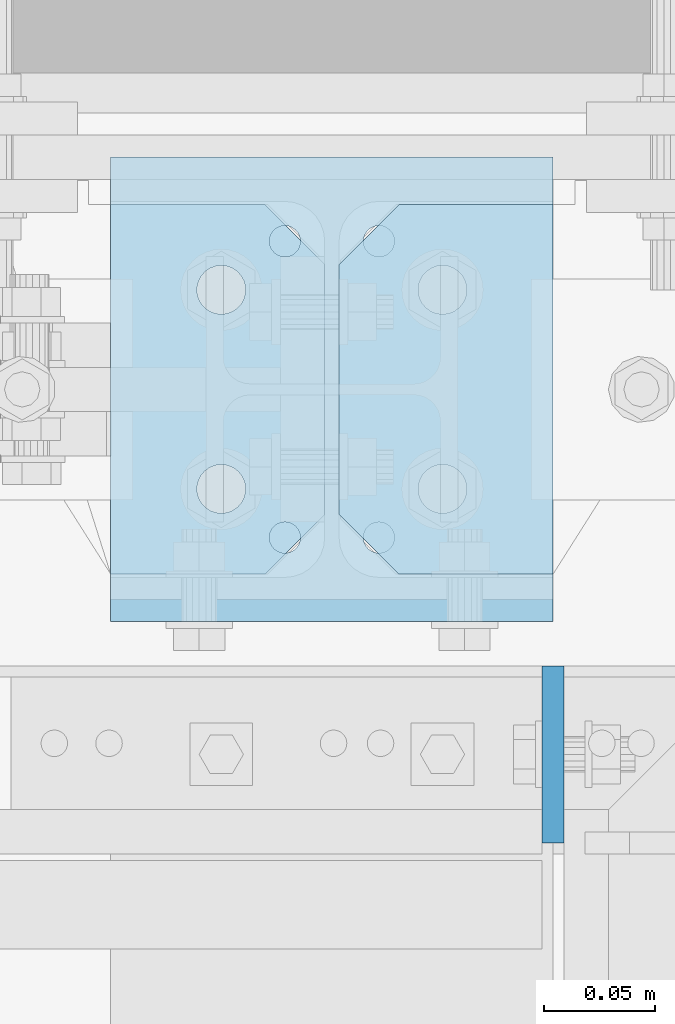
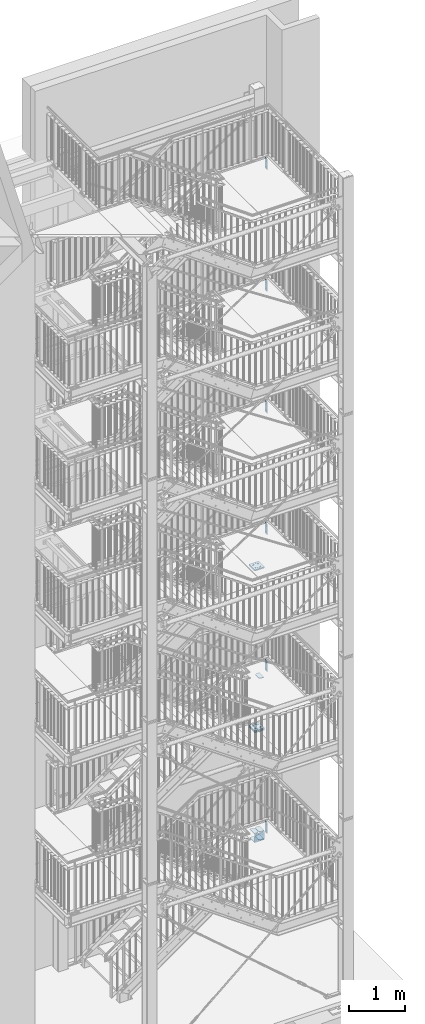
# One storey, part 215 of 825: 15 plates, 66 openings.
"""IFC2X3 building model written with IfcOpenShell, lengths in millimetres."""

from ifc_helpers import new_model, entity, si_unit, converted_unit, frame, frame_2d, origin, origin_with_axes, origin_2d_with_axis, place, context, project, spatial, polyline, circle, outline, extrude, material, layer, layer_set, element, save


model = new_model("IFC2X3")

# Units and contexts
model_context = context("Model", 3, precision=1e-09, world=origin_with_axes())
ifc_project = project(units=[si_unit("LENGTHUNIT", "METRE", prefix="MILLI"), si_unit("AREAUNIT", "SQUARE_METRE"), si_unit("VOLUMEUNIT", "CUBIC_METRE"), converted_unit("PLANEANGLEUNIT", "DEGREE", entity("IfcPlaneAngleMeasure", 0.01745329), si_unit("PLANEANGLEUNIT", "RADIAN"), dimensions=[0, 0, 0, 0, 0, 0, 0])], contexts=[model_context])

# Site, building, storey
site_placement = place(None, origin_with_axes())
site = spatial("IfcSite", under=ifc_project, at=site_placement, Name="Cnopf'sche Kinderklinik", CompositionType="ELEMENT")
building_placement = place(site_placement, origin_with_axes())
building = spatial("IfcBuilding", under=site, at=building_placement, Name="Struktur 1", CompositionType="ELEMENT")
storey_placement = place(building_placement, origin_with_axes())
storey = spatial("IfcBuildingStorey", under=building, at=storey_placement, Name="Default Storey", CompositionType="ELEMENT", Elevation=0.0)

# Plate, openings
ifc_material = material(Name="S235JR")
ifc_layer_1 = layer(ifc_material, 10.0)
ifc_layer_set_1 = layer_set([ifc_layer_1], Name="S235JR")
plate_1_placement = place(None, frame((8966.713402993, 7433.236971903, 5254.8947367), z_axis=(0.0, 0.0, -1.0), x_axis=(-1.0, 0.0, 0.0)))
plate_1 = element("IfcPlate", 1, at=plate_1_placement, inside=storey, material=ifc_layer_set_1, Name="Stiffener#4", ObjectType="Stiffener#4", context=model_context, shape_type="SweptSolid", body=[
    extrude(outline(polyline([(0.0, 0.0), (96.75, 0.0), (96.75, 167.0), (0.0, 167.0), (0.0, 0.0)])), origin_with_axes(), (0.0, 0.0, 1.0), 10.0),
])
opening_1_placement = place(plate_1_placement, frame((0.0, 0.0, -0.01), z_axis=(0.0, 0.0, 1.0), x_axis=(1.0, 0.0, 0.0)))
element("IfcOpeningElement", 2, at=opening_1_placement, cuts=plate_1, ObjectType="Opening", context=model_context, shape_type="SweptSolid", body=[
    extrude(outline(polyline([(96.75, 167.0), (69.75, 167.0), (96.75, 140.0), (96.75, 167.0)])), origin(), (0.0, 0.0, 1.0), 10.02),
])
opening_2_placement = place(plate_1_placement, frame((0.0, 0.0, -0.01), z_axis=(0.0, 0.0, 1.0), x_axis=(1.0, 0.0, 0.0)))
element("IfcOpeningElement", 3, at=opening_2_placement, cuts=plate_1, ObjectType="Opening", context=model_context, shape_type="SweptSolid", body=[
    extrude(outline(polyline([(96.75, 0.0), (96.75, 27.0), (69.75, 0.0), (96.75, 0.0)])), origin(), (0.0, 0.0, 1.0), 10.02),
])

plate_2_placement = place(None, frame((8866.713402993, 7411.736971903, 1846.0526312), z_axis=(0.0, 1.0, 0.0), x_axis=(0.0, 0.0, -1.0)))
plate_2 = element("IfcPlate", 4, at=plate_2_placement, inside=storey, material=ifc_layer_set_1, Name="Endplate", ObjectType="Endplate", context=model_context, shape_type="SweptSolid", body=[
    extrude(outline(polyline([(-90.0, -100.0), (90.0, -100.0), (90.0, 100.0), (-90.0, 100.0), (-90.0, -100.0)])), origin_with_axes(), (0.0, 0.0, 1.0), 10.0),
])
opening_3_placement = place(plate_2_placement, frame((-67.0, 21.25, 10.5), z_axis=(0.0, 0.0, -1.0), x_axis=(-1.0, 0.0, 0.0)))
element("IfcOpeningElement", 5, at=opening_3_placement, cuts=plate_2, ObjectType="Opening", context=model_context, shape_type="SweptSolid", body=[
    extrude(circle(Radius=6.001, at=origin_2d_with_axis()), origin(), (0.0, 0.0, 1.0), 11.0),
])
opening_4_placement = place(plate_2_placement, frame((67.0, 21.25, 10.5), z_axis=(0.0, 0.0, -1.0), x_axis=(-1.0, 0.0, 0.0)))
element("IfcOpeningElement", 6, at=opening_4_placement, cuts=plate_2, ObjectType="Opening", context=model_context, shape_type="SweptSolid", body=[
    extrude(circle(Radius=6.001, at=origin_2d_with_axis()), origin(), (0.0, 0.0, 1.0), 11.0),
])
opening_5_placement = place(plate_2_placement, frame((67.0, -21.25, 10.5), z_axis=(0.0, 0.0, -1.0), x_axis=(-1.0, 0.0, 0.0)))
element("IfcOpeningElement", 7, at=opening_5_placement, cuts=plate_2, ObjectType="Opening", context=model_context, shape_type="SweptSolid", body=[
    extrude(circle(Radius=6.001, at=origin_2d_with_axis()), origin(), (0.0, 0.0, 1.0), 11.0),
])
opening_6_placement = place(plate_2_placement, frame((-67.0, -21.25, 10.5), z_axis=(0.0, 0.0, -1.0), x_axis=(-1.0, 0.0, 0.0)))
element("IfcOpeningElement", 8, at=opening_6_placement, cuts=plate_2, ObjectType="Opening", context=model_context, shape_type="SweptSolid", body=[
    extrude(circle(Radius=6.001, at=origin_2d_with_axis()), origin(), (0.0, 0.0, 1.0), 11.0),
])
opening_7_placement = place(plate_2_placement, frame((-45.0, 60.0, 10.5), z_axis=(0.0, 0.0, -1.0), x_axis=(0.0, 1.0, 0.0)))
element("IfcOpeningElement", 9, at=opening_7_placement, cuts=plate_2, ObjectType="Opening", context=model_context, shape_type="SweptSolid", body=[
    extrude(circle(Radius=9.001, at=origin_2d_with_axis()), origin(), (0.0, 0.0, 1.0), 11.0),
])
opening_8_placement = place(plate_2_placement, frame((-45.0, -60.0, 10.5), z_axis=(0.0, 0.0, -1.0), x_axis=(0.0, -1.0, 0.0)))
element("IfcOpeningElement", 10, at=opening_8_placement, cuts=plate_2, ObjectType="Opening", context=model_context, shape_type="SweptSolid", body=[
    extrude(circle(Radius=9.001, at=origin_2d_with_axis()), origin(), (0.0, 0.0, 1.0), 11.0),
])
opening_9_placement = place(plate_2_placement, frame((45.0, -60.0, 10.5), z_axis=(0.0, 0.0, -1.0), x_axis=(0.0, -1.0, 0.0)))
element("IfcOpeningElement", 11, at=opening_9_placement, cuts=plate_2, ObjectType="Opening", context=model_context, shape_type="SweptSolid", body=[
    extrude(circle(Radius=9.001, at=origin_2d_with_axis()), origin(), (0.0, 0.0, 1.0), 11.0),
])
opening_10_placement = place(plate_2_placement, frame((45.0, 60.0, 10.5), z_axis=(0.0, 0.0, -1.0), x_axis=(0.0, 1.0, 0.0)))
element("IfcOpeningElement", 12, at=opening_10_placement, cuts=plate_2, ObjectType="Opening", context=model_context, shape_type="SweptSolid", body=[
    extrude(circle(Radius=9.001, at=origin_2d_with_axis()), origin(), (0.0, 0.0, 1.0), 11.0),
])

plate_3_placement = place(None, frame((8766.713402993, 7433.236971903, 1931.0526312), z_axis=(0.0, 0.0, 1.0), x_axis=(1.0, 0.0, 0.0)))
plate_3 = element("IfcPlate", 13, at=plate_3_placement, inside=storey, material=ifc_layer_set_1, Name="Stiffener#1", ObjectType="Stiffener#1", context=model_context, shape_type="SweptSolid", body=[
    extrude(outline(polyline([(0.0, 0.0), (96.75, 0.0), (96.75, 167.0), (0.0, 167.0), (0.0, 0.0)])), origin_with_axes(), (0.0, 0.0, 1.0), 10.0),
])
opening_11_placement = place(plate_3_placement, frame((0.0, 0.0, -0.01), z_axis=(0.0, 0.0, 1.0), x_axis=(1.0, 0.0, 0.0)))
element("IfcOpeningElement", 14, at=opening_11_placement, cuts=plate_3, ObjectType="Opening", context=model_context, shape_type="SweptSolid", body=[
    extrude(outline(polyline([(96.75, 167.0), (69.75, 167.0), (96.75, 140.0), (96.75, 167.0)])), origin(), (0.0, 0.0, 1.0), 10.02),
])
opening_12_placement = place(plate_3_placement, frame((0.0, 0.0, -0.01), z_axis=(0.0, 0.0, 1.0), x_axis=(1.0, 0.0, 0.0)))
element("IfcOpeningElement", 15, at=opening_12_placement, cuts=plate_3, ObjectType="Opening", context=model_context, shape_type="SweptSolid", body=[
    extrude(outline(polyline([(96.75, 0.0), (96.75, 27.0), (69.75, 0.0), (96.75, 0.0)])), origin(), (0.0, 0.0, 1.0), 10.02),
])

plate_4_placement = place(None, frame((8869.963402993, 7433.236971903, 1931.0526312), z_axis=(0.0, 0.0, 1.0), x_axis=(1.0, 0.0, 0.0)))
plate_4 = element("IfcPlate", 16, at=plate_4_placement, inside=storey, material=ifc_layer_set_1, Name="Stiffener#2", ObjectType="Stiffener#2", context=model_context, shape_type="SweptSolid", body=[
    extrude(outline(polyline([(0.0, 0.0), (96.75, 0.0), (96.75, 167.0), (0.0, 167.0), (0.0, 0.0)])), origin_with_axes(), (0.0, 0.0, 1.0), 10.0),
])
opening_13_placement = place(plate_4_placement, frame((0.0, 0.0, -0.01), z_axis=(0.0, 0.0, 1.0), x_axis=(1.0, 0.0, 0.0)))
element("IfcOpeningElement", 17, at=opening_13_placement, cuts=plate_4, ObjectType="Opening", context=model_context, shape_type="SweptSolid", body=[
    extrude(outline(polyline([(0.0, 167.0), (0.0, 140.0), (27.0, 167.0), (0.0, 167.0)])), origin(), (0.0, 0.0, 1.0), 10.02),
])
opening_14_placement = place(plate_4_placement, frame((0.0, 0.0, -0.01), z_axis=(0.0, 0.0, 1.0), x_axis=(1.0, 0.0, 0.0)))
element("IfcOpeningElement", 18, at=opening_14_placement, cuts=plate_4, ObjectType="Opening", context=model_context, shape_type="SweptSolid", body=[
    extrude(outline(polyline([(0.0, 0.0), (27.0, 0.0), (0.0, 27.0), (0.0, 0.0)])), origin(), (0.0, 0.0, 1.0), 10.02),
])

plate_5_placement = place(None, frame((8863.463402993, 7433.236971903, 1761.0526312), z_axis=(0.0, 0.0, -1.0), x_axis=(-1.0, 0.0, 0.0)))
plate_5 = element("IfcPlate", 19, at=plate_5_placement, inside=storey, material=ifc_layer_set_1, Name="Stiffener#3", ObjectType="Stiffener#3", context=model_context, shape_type="SweptSolid", body=[
    extrude(outline(polyline([(0.0, 0.0), (96.75, 0.0), (96.75, 167.0), (0.0, 167.0), (0.0, 0.0)])), origin_with_axes(), (0.0, 0.0, 1.0), 10.0),
])
opening_15_placement = place(plate_5_placement, frame((0.0, 0.0, -0.01), z_axis=(0.0, 0.0, 1.0), x_axis=(1.0, 0.0, 0.0)))
element("IfcOpeningElement", 20, at=opening_15_placement, cuts=plate_5, ObjectType="Opening", context=model_context, shape_type="SweptSolid", body=[
    extrude(outline(polyline([(0.0, 167.0), (0.0, 140.0), (27.0, 167.0), (0.0, 167.0)])), origin(), (0.0, 0.0, 1.0), 10.02),
])
opening_16_placement = place(plate_5_placement, frame((0.0, 0.0, -0.01), z_axis=(0.0, 0.0, 1.0), x_axis=(1.0, 0.0, 0.0)))
element("IfcOpeningElement", 21, at=opening_16_placement, cuts=plate_5, ObjectType="Opening", context=model_context, shape_type="SweptSolid", body=[
    extrude(outline(polyline([(0.0, 0.0), (27.0, 0.0), (0.0, 27.0), (0.0, 0.0)])), origin(), (0.0, 0.0, 1.0), 10.02),
])

plate_6_placement = place(None, frame((8966.713402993, 7433.236971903, 1761.0526312), z_axis=(0.0, 0.0, -1.0), x_axis=(-1.0, 0.0, 0.0)))
plate_6 = element("IfcPlate", 22, at=plate_6_placement, inside=storey, material=ifc_layer_set_1, Name="Stiffener#4", ObjectType="Stiffener#4", context=model_context, shape_type="SweptSolid", body=[
    extrude(outline(polyline([(0.0, 0.0), (96.75, 0.0), (96.75, 167.0), (0.0, 167.0), (0.0, 0.0)])), origin_with_axes(), (0.0, 0.0, 1.0), 10.0),
])
opening_17_placement = place(plate_6_placement, frame((0.0, 0.0, -0.01), z_axis=(0.0, 0.0, 1.0), x_axis=(1.0, 0.0, 0.0)))
element("IfcOpeningElement", 23, at=opening_17_placement, cuts=plate_6, ObjectType="Opening", context=model_context, shape_type="SweptSolid", body=[
    extrude(outline(polyline([(96.75, 167.0), (69.75, 167.0), (96.75, 140.0), (96.75, 167.0)])), origin(), (0.0, 0.0, 1.0), 10.02),
])
opening_18_placement = place(plate_6_placement, frame((0.0, 0.0, -0.01), z_axis=(0.0, 0.0, 1.0), x_axis=(1.0, 0.0, 0.0)))
element("IfcOpeningElement", 24, at=opening_18_placement, cuts=plate_6, ObjectType="Opening", context=model_context, shape_type="SweptSolid", body=[
    extrude(outline(polyline([(96.75, 0.0), (96.75, 27.0), (69.75, 0.0), (96.75, 0.0)])), origin(), (0.0, 0.0, 1.0), 10.02),
])

plate_7_placement = place(None, frame((8971.713402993, 7311.736971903, 2176.0526312), z_axis=(-1.0, 0.0, 0.0), x_axis=(0.0, 1.0, 0.0)))
plate_7 = element("IfcPlate", 25, at=plate_7_placement, inside=storey, material=ifc_layer_set_1, Name="Endplate", ObjectType="Endplate", context=model_context, shape_type="SweptSolid", body=[
    extrude(outline(polyline([(0.0, 0.0), (80.0, 0.0), (80.0, 230.0), (0.0, 230.0), (0.0, 0.0)])), origin_with_axes(), (0.0, 0.0, 1.0), 10.0),
])
opening_19_placement = place(plate_7_placement, frame((17.5, 209.0, -0.5), z_axis=(0.0, 0.0, 1.0), x_axis=(0.0, -1.0, 0.0)))
element("IfcOpeningElement", 26, at=opening_19_placement, cuts=plate_7, ObjectType="Opening", context=model_context, shape_type="SweptSolid", body=[
    extrude(circle(Radius=6.001, at=origin_2d_with_axis()), origin(), (0.0, 0.0, 1.0), 11.0),
])
opening_20_placement = place(plate_7_placement, frame((17.5, 21.0, -0.5), z_axis=(0.0, 0.0, 1.0), x_axis=(0.0, -1.0, 0.0)))
element("IfcOpeningElement", 27, at=opening_20_placement, cuts=plate_7, ObjectType="Opening", context=model_context, shape_type="SweptSolid", body=[
    extrude(circle(Radius=6.001, at=origin_2d_with_axis()), origin(), (0.0, 0.0, 1.0), 11.0),
])
opening_21_placement = place(plate_7_placement, frame((40.0, 115.0, -0.5), z_axis=(0.0, 0.0, 1.0), x_axis=(0.0, -1.0, 0.0)))
element("IfcOpeningElement", 28, at=opening_21_placement, cuts=plate_7, ObjectType="Opening", context=model_context, shape_type="SweptSolid", body=[
    extrude(circle(Radius=9.001, at=frame_2d((60.0, 0.0), x_axis=(1.0, 0.0))), origin(), (0.0, 0.0, 1.0), 11.0),
])
opening_22_placement = place(plate_7_placement, frame((40.0, 115.0, -0.5), z_axis=(0.0, 0.0, 1.0), x_axis=(0.0, -1.0, 0.0)))
element("IfcOpeningElement", 29, at=opening_22_placement, cuts=plate_7, ObjectType="Opening", context=model_context, shape_type="SweptSolid", body=[
    extrude(circle(Radius=9.001, at=frame_2d((-60.0, 0.0), x_axis=(1.0, 0.0))), origin(), (0.0, 0.0, 1.0), 11.0),
])

plate_8_placement = place(None, frame((8971.713402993, 7311.736971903, 5669.8947367), z_axis=(-1.0, 0.0, 0.0), x_axis=(0.0, 1.0, 0.0)))
plate_8 = element("IfcPlate", 30, at=plate_8_placement, inside=storey, material=ifc_layer_set_1, Name="Endplate", ObjectType="Endplate", context=model_context, shape_type="SweptSolid", body=[
    extrude(outline(polyline([(0.0, 0.0), (80.0, 0.0), (80.0, 230.0), (0.0, 230.0), (0.0, 0.0)])), origin_with_axes(), (0.0, 0.0, 1.0), 10.0),
])
opening_23_placement = place(plate_8_placement, frame((17.5, 209.0, -0.5), z_axis=(0.0, 0.0, 1.0), x_axis=(0.0, -1.0, 0.0)))
element("IfcOpeningElement", 31, at=opening_23_placement, cuts=plate_8, ObjectType="Opening", context=model_context, shape_type="SweptSolid", body=[
    extrude(circle(Radius=6.001, at=origin_2d_with_axis()), origin(), (0.0, 0.0, 1.0), 11.0),
])
opening_24_placement = place(plate_8_placement, frame((17.5, 21.0, -0.5), z_axis=(0.0, 0.0, 1.0), x_axis=(0.0, -1.0, 0.0)))
element("IfcOpeningElement", 32, at=opening_24_placement, cuts=plate_8, ObjectType="Opening", context=model_context, shape_type="SweptSolid", body=[
    extrude(circle(Radius=6.001, at=origin_2d_with_axis()), origin(), (0.0, 0.0, 1.0), 11.0),
])
opening_25_placement = place(plate_8_placement, frame((40.0, 115.0, -0.5), z_axis=(0.0, 0.0, 1.0), x_axis=(0.0, -1.0, 0.0)))
element("IfcOpeningElement", 33, at=opening_25_placement, cuts=plate_8, ObjectType="Opening", context=model_context, shape_type="SweptSolid", body=[
    extrude(circle(Radius=9.001, at=frame_2d((60.0, 0.0), x_axis=(1.0, 0.0))), origin(), (0.0, 0.0, 1.0), 11.0),
])
opening_26_placement = place(plate_8_placement, frame((40.0, 115.0, -0.5), z_axis=(0.0, 0.0, 1.0), x_axis=(0.0, -1.0, 0.0)))
element("IfcOpeningElement", 34, at=opening_26_placement, cuts=plate_8, ObjectType="Opening", context=model_context, shape_type="SweptSolid", body=[
    extrude(circle(Radius=9.001, at=frame_2d((-60.0, 0.0), x_axis=(1.0, 0.0))), origin(), (0.0, 0.0, 1.0), 11.0),
])

plate_9_placement = place(None, frame((8971.713402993, 7311.736971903, 8631.0), z_axis=(-1.0, 0.0, 0.0), x_axis=(0.0, 1.0, 0.0)))
plate_9 = element("IfcPlate", 35, at=plate_9_placement, inside=storey, material=ifc_layer_set_1, Name="Endplate", ObjectType="Endplate", context=model_context, shape_type="SweptSolid", body=[
    extrude(outline(polyline([(0.0, 0.0), (80.0, 0.0), (80.0, 230.0), (0.0, 230.0), (0.0, 0.0)])), origin_with_axes(), (0.0, 0.0, 1.0), 10.0),
])
opening_27_placement = place(plate_9_placement, frame((17.5, 209.0, -0.5), z_axis=(0.0, 0.0, 1.0), x_axis=(0.0, -1.0, 0.0)))
element("IfcOpeningElement", 36, at=opening_27_placement, cuts=plate_9, ObjectType="Opening", context=model_context, shape_type="SweptSolid", body=[
    extrude(circle(Radius=6.001, at=origin_2d_with_axis()), origin(), (0.0, 0.0, 1.0), 11.0),
])
opening_28_placement = place(plate_9_placement, frame((17.5, 21.0, -0.5), z_axis=(0.0, 0.0, 1.0), x_axis=(0.0, -1.0, 0.0)))
element("IfcOpeningElement", 37, at=opening_28_placement, cuts=plate_9, ObjectType="Opening", context=model_context, shape_type="SweptSolid", body=[
    extrude(circle(Radius=6.001, at=origin_2d_with_axis()), origin(), (0.0, 0.0, 1.0), 11.0),
])
opening_29_placement = place(plate_9_placement, frame((40.0, 115.0, -0.5), z_axis=(0.0, 0.0, 1.0), x_axis=(0.0, -1.0, 0.0)))
element("IfcOpeningElement", 38, at=opening_29_placement, cuts=plate_9, ObjectType="Opening", context=model_context, shape_type="SweptSolid", body=[
    extrude(circle(Radius=9.001, at=frame_2d((60.0, 0.0), x_axis=(1.0, 0.0))), origin(), (0.0, 0.0, 1.0), 11.0),
])
opening_30_placement = place(plate_9_placement, frame((40.0, 115.0, -0.5), z_axis=(0.0, 0.0, 1.0), x_axis=(0.0, -1.0, 0.0)))
element("IfcOpeningElement", 39, at=opening_30_placement, cuts=plate_9, ObjectType="Opening", context=model_context, shape_type="SweptSolid", body=[
    extrude(circle(Radius=9.001, at=frame_2d((-60.0, 0.0), x_axis=(1.0, 0.0))), origin(), (0.0, 0.0, 1.0), 11.0),
])

plate_10_placement = place(None, frame((8971.713402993, 7311.736971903, 11260.5000003), z_axis=(-1.0, 0.0, 0.0), x_axis=(0.0, 1.0, 0.0)))
plate_10 = element("IfcPlate", 40, at=plate_10_placement, inside=storey, material=ifc_layer_set_1, Name="Endplate", ObjectType="Endplate", context=model_context, shape_type="SweptSolid", body=[
    extrude(outline(polyline([(0.0, 0.0), (80.0, 0.0), (80.0, 230.0), (0.0, 230.0), (0.0, 0.0)])), origin_with_axes(), (0.0, 0.0, 1.0), 10.0),
])
opening_31_placement = place(plate_10_placement, frame((17.5, 209.0, -0.5), z_axis=(0.0, 0.0, 1.0), x_axis=(0.0, -1.0, 0.0)))
element("IfcOpeningElement", 41, at=opening_31_placement, cuts=plate_10, ObjectType="Opening", context=model_context, shape_type="SweptSolid", body=[
    extrude(circle(Radius=6.001, at=origin_2d_with_axis()), origin(), (0.0, 0.0, 1.0), 11.0),
])
opening_32_placement = place(plate_10_placement, frame((17.5, 21.0, -0.5), z_axis=(0.0, 0.0, 1.0), x_axis=(0.0, -1.0, 0.0)))
element("IfcOpeningElement", 42, at=opening_32_placement, cuts=plate_10, ObjectType="Opening", context=model_context, shape_type="SweptSolid", body=[
    extrude(circle(Radius=6.001, at=origin_2d_with_axis()), origin(), (0.0, 0.0, 1.0), 11.0),
])
opening_33_placement = place(plate_10_placement, frame((40.0, 115.0, -0.5), z_axis=(0.0, 0.0, 1.0), x_axis=(0.0, -1.0, 0.0)))
element("IfcOpeningElement", 43, at=opening_33_placement, cuts=plate_10, ObjectType="Opening", context=model_context, shape_type="SweptSolid", body=[
    extrude(circle(Radius=9.001, at=frame_2d((60.0, 0.0), x_axis=(1.0, 0.0))), origin(), (0.0, 0.0, 1.0), 11.0),
])
opening_34_placement = place(plate_10_placement, frame((40.0, 115.0, -0.5), z_axis=(0.0, 0.0, 1.0), x_axis=(0.0, -1.0, 0.0)))
element("IfcOpeningElement", 44, at=opening_34_placement, cuts=plate_10, ObjectType="Opening", context=model_context, shape_type="SweptSolid", body=[
    extrude(circle(Radius=9.001, at=frame_2d((-60.0, 0.0), x_axis=(1.0, 0.0))), origin(), (0.0, 0.0, 1.0), 11.0),
])

plate_11_placement = place(None, frame((8971.713402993, 7311.736971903, 13891.5000001), z_axis=(-1.0, 0.0, 0.0), x_axis=(0.0, 1.0, 0.0)))
plate_11 = element("IfcPlate", 45, at=plate_11_placement, inside=storey, material=ifc_layer_set_1, Name="Endplate", ObjectType="Endplate", context=model_context, shape_type="SweptSolid", body=[
    extrude(outline(polyline([(0.0, 0.0), (80.0, 0.0), (80.0, 230.0), (0.0, 230.0), (0.0, 0.0)])), origin_with_axes(), (0.0, 0.0, 1.0), 10.0),
])
opening_35_placement = place(plate_11_placement, frame((17.5, 209.0, -0.5), z_axis=(0.0, 0.0, 1.0), x_axis=(0.0, -1.0, 0.0)))
element("IfcOpeningElement", 46, at=opening_35_placement, cuts=plate_11, ObjectType="Opening", context=model_context, shape_type="SweptSolid", body=[
    extrude(circle(Radius=6.001, at=origin_2d_with_axis()), origin(), (0.0, 0.0, 1.0), 11.0),
])
opening_36_placement = place(plate_11_placement, frame((17.5, 21.0, -0.5), z_axis=(0.0, 0.0, 1.0), x_axis=(0.0, -1.0, 0.0)))
element("IfcOpeningElement", 47, at=opening_36_placement, cuts=plate_11, ObjectType="Opening", context=model_context, shape_type="SweptSolid", body=[
    extrude(circle(Radius=6.001, at=origin_2d_with_axis()), origin(), (0.0, 0.0, 1.0), 11.0),
])
opening_37_placement = place(plate_11_placement, frame((40.0, 115.0, -0.5), z_axis=(0.0, 0.0, 1.0), x_axis=(0.0, -1.0, 0.0)))
element("IfcOpeningElement", 48, at=opening_37_placement, cuts=plate_11, ObjectType="Opening", context=model_context, shape_type="SweptSolid", body=[
    extrude(circle(Radius=9.001, at=frame_2d((60.0, 0.0), x_axis=(1.0, 0.0))), origin(), (0.0, 0.0, 1.0), 11.0),
])
opening_38_placement = place(plate_11_placement, frame((40.0, 115.0, -0.5), z_axis=(0.0, 0.0, 1.0), x_axis=(0.0, -1.0, 0.0)))
element("IfcOpeningElement", 49, at=opening_38_placement, cuts=plate_11, ObjectType="Opening", context=model_context, shape_type="SweptSolid", body=[
    extrude(circle(Radius=9.001, at=frame_2d((-60.0, 0.0), x_axis=(1.0, 0.0))), origin(), (0.0, 0.0, 1.0), 11.0),
])

plate_12_placement = place(None, frame((8971.713402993, 7311.736971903, 16519.0000003), z_axis=(-1.0, 0.0, 0.0), x_axis=(0.0, 1.0, 0.0)))
plate_12 = element("IfcPlate", 50, at=plate_12_placement, inside=storey, material=ifc_layer_set_1, Name="Endplate", ObjectType="Endplate", context=model_context, shape_type="SweptSolid", body=[
    extrude(outline(polyline([(0.0, 0.0), (80.0, 0.0), (80.0, 230.0), (0.0, 230.0), (0.0, 0.0)])), origin_with_axes(), (0.0, 0.0, 1.0), 10.0),
])
opening_39_placement = place(plate_12_placement, frame((17.5, 209.0, -0.5), z_axis=(0.0, 0.0, 1.0), x_axis=(0.0, -1.0, 0.0)))
element("IfcOpeningElement", 51, at=opening_39_placement, cuts=plate_12, ObjectType="Opening", context=model_context, shape_type="SweptSolid", body=[
    extrude(circle(Radius=6.001, at=origin_2d_with_axis()), origin(), (0.0, 0.0, 1.0), 11.0),
])
opening_40_placement = place(plate_12_placement, frame((17.5, 21.0, -0.5), z_axis=(0.0, 0.0, 1.0), x_axis=(0.0, -1.0, 0.0)))
element("IfcOpeningElement", 52, at=opening_40_placement, cuts=plate_12, ObjectType="Opening", context=model_context, shape_type="SweptSolid", body=[
    extrude(circle(Radius=6.001, at=origin_2d_with_axis()), origin(), (0.0, 0.0, 1.0), 11.0),
])
opening_41_placement = place(plate_12_placement, frame((40.0, 115.0, -0.5), z_axis=(0.0, 0.0, 1.0), x_axis=(0.0, -1.0, 0.0)))
element("IfcOpeningElement", 53, at=opening_41_placement, cuts=plate_12, ObjectType="Opening", context=model_context, shape_type="SweptSolid", body=[
    extrude(circle(Radius=9.001, at=frame_2d((60.0, 0.0), x_axis=(1.0, 0.0))), origin(), (0.0, 0.0, 1.0), 11.0),
])
opening_42_placement = place(plate_12_placement, frame((40.0, 115.0, -0.5), z_axis=(0.0, 0.0, 1.0), x_axis=(0.0, -1.0, 0.0)))
element("IfcOpeningElement", 54, at=opening_42_placement, cuts=plate_12, ObjectType="Opening", context=model_context, shape_type="SweptSolid", body=[
    extrude(circle(Radius=9.001, at=frame_2d((-60.0, 0.0), x_axis=(1.0, 0.0))), origin(), (0.0, 0.0, 1.0), 11.0),
])

ifc_layer_2 = layer(ifc_material, 25.0)
ifc_layer_set_2 = layer_set([ifc_layer_2], Name="S235JR")
plate_13_placement = place(None, frame((8866.713402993, 7516.736971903, 4150.0), z_axis=(0.0, 0.0, -1.0), x_axis=(0.0, -1.0, 0.0)))
plate_13 = element("IfcPlate", 55, at=plate_13_placement, inside=storey, material=ifc_layer_set_2, Name="Endplate#1", ObjectType="Endplate#1", context=model_context, shape_type="SweptSolid", body=[
    extrude(outline(polyline([(-105.0, -100.0), (105.0, -100.0), (105.0, 100.0), (-105.0, 100.0), (-105.0, -100.0)])), origin_with_axes(), (0.0, 0.0, 1.0), 25.0),
])
opening_43_placement = place(plate_13_placement, frame((67.0, 21.25, -0.5), z_axis=(0.0, 0.0, 1.0), x_axis=(1.0, 0.0, 0.0)))
element("IfcOpeningElement", 56, at=opening_43_placement, cuts=plate_13, ObjectType="Opening", context=model_context, shape_type="SweptSolid", body=[
    extrude(circle(Radius=7.001, at=origin_2d_with_axis()), origin(), (0.0, 0.0, 1.0), 26.0),
])
opening_44_placement = place(plate_13_placement, frame((-67.0, 21.25, -0.5), z_axis=(0.0, 0.0, 1.0), x_axis=(1.0, 0.0, 0.0)))
element("IfcOpeningElement", 57, at=opening_44_placement, cuts=plate_13, ObjectType="Opening", context=model_context, shape_type="SweptSolid", body=[
    extrude(circle(Radius=7.001, at=origin_2d_with_axis()), origin(), (0.0, 0.0, 1.0), 26.0),
])
opening_45_placement = place(plate_13_placement, frame((-67.0, -21.25, -0.5), z_axis=(0.0, 0.0, 1.0), x_axis=(1.0, 0.0, 0.0)))
element("IfcOpeningElement", 58, at=opening_45_placement, cuts=plate_13, ObjectType="Opening", context=model_context, shape_type="SweptSolid", body=[
    extrude(circle(Radius=7.001, at=origin_2d_with_axis()), origin(), (0.0, 0.0, 1.0), 26.0),
])
opening_46_placement = place(plate_13_placement, frame((67.0, -21.25, -0.5), z_axis=(0.0, 0.0, 1.0), x_axis=(1.0, 0.0, 0.0)))
element("IfcOpeningElement", 59, at=opening_46_placement, cuts=plate_13, ObjectType="Opening", context=model_context, shape_type="SweptSolid", body=[
    extrude(circle(Radius=7.001, at=origin_2d_with_axis()), origin(), (0.0, 0.0, 1.0), 26.0),
])
opening_47_placement = place(plate_13_placement, frame((45.0, -38.999, 25.5), z_axis=(0.0, 0.0, 1.0), x_axis=(1.0, 0.0, 0.0)))
element("IfcOpeningElement", 60, at=opening_47_placement, cuts=plate_13, ObjectType="Opening", context=model_context, shape_type="SweptSolid", body=[
    extrude(circle(Radius=11.001, at=frame_2d((0.0, -11.001), x_axis=(1.0, 0.0))), origin(), (0.0, 0.0, -1.0), 26.0),
])
opening_48_placement = place(plate_13_placement, frame((-45.0, -38.999, 25.5), z_axis=(0.0, 0.0, 1.0), x_axis=(1.0, 0.0, 0.0)))
element("IfcOpeningElement", 61, at=opening_48_placement, cuts=plate_13, ObjectType="Opening", context=model_context, shape_type="SweptSolid", body=[
    extrude(circle(Radius=11.001, at=frame_2d((0.0, -11.001), x_axis=(1.0, 0.0))), origin(), (0.0, 0.0, -1.0), 26.0),
])
opening_49_placement = place(plate_13_placement, frame((45.0, 61.001, 25.5), z_axis=(0.0, 0.0, 1.0), x_axis=(1.0, 0.0, 0.0)))
element("IfcOpeningElement", 62, at=opening_49_placement, cuts=plate_13, ObjectType="Opening", context=model_context, shape_type="SweptSolid", body=[
    extrude(circle(Radius=11.001, at=frame_2d((0.0, -11.001), x_axis=(1.0, 0.0))), origin(), (0.0, 0.0, -1.0), 26.0),
])
opening_50_placement = place(plate_13_placement, frame((-45.0, 61.001, 25.5), z_axis=(0.0, 0.0, 1.0), x_axis=(1.0, 0.0, 0.0)))
element("IfcOpeningElement", 63, at=opening_50_placement, cuts=plate_13, ObjectType="Opening", context=model_context, shape_type="SweptSolid", body=[
    extrude(circle(Radius=11.001, at=frame_2d((0.0, -11.001), x_axis=(1.0, 0.0))), origin(), (0.0, 0.0, -1.0), 26.0),
])

plate_14_placement = place(None, frame((8866.713402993, 7516.736971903, 4175.0), z_axis=(0.0, 0.0, -1.0), x_axis=(0.0, -1.0, 0.0)))
plate_14 = element("IfcPlate", 64, at=plate_14_placement, inside=storey, material=ifc_layer_set_2, Name="Endplate#2", ObjectType="Endplate#2", context=model_context, shape_type="SweptSolid", body=[
    extrude(outline(polyline([(-105.0, -100.0), (105.0, -100.0), (105.0, 100.0), (-105.0, 100.0), (-105.0, -100.0)])), origin_with_axes(), (0.0, 0.0, 1.0), 25.0),
])
opening_51_placement = place(plate_14_placement, frame((67.0, 21.25, 25.5), z_axis=(0.0, 0.0, -1.0), x_axis=(-1.0, 0.0, 0.0)))
element("IfcOpeningElement", 65, at=opening_51_placement, cuts=plate_14, ObjectType="Opening", context=model_context, shape_type="SweptSolid", body=[
    extrude(circle(Radius=7.001, at=origin_2d_with_axis()), origin(), (0.0, 0.0, 1.0), 26.0),
])
opening_52_placement = place(plate_14_placement, frame((-67.0, 21.25, 25.5), z_axis=(0.0, 0.0, -1.0), x_axis=(-1.0, 0.0, 0.0)))
element("IfcOpeningElement", 66, at=opening_52_placement, cuts=plate_14, ObjectType="Opening", context=model_context, shape_type="SweptSolid", body=[
    extrude(circle(Radius=7.001, at=origin_2d_with_axis()), origin(), (0.0, 0.0, 1.0), 26.0),
])
opening_53_placement = place(plate_14_placement, frame((-67.0, -21.25, 25.5), z_axis=(0.0, 0.0, -1.0), x_axis=(-1.0, 0.0, 0.0)))
element("IfcOpeningElement", 67, at=opening_53_placement, cuts=plate_14, ObjectType="Opening", context=model_context, shape_type="SweptSolid", body=[
    extrude(circle(Radius=7.001, at=origin_2d_with_axis()), origin(), (0.0, 0.0, 1.0), 26.0),
])
opening_54_placement = place(plate_14_placement, frame((67.0, -21.25, 25.5), z_axis=(0.0, 0.0, -1.0), x_axis=(-1.0, 0.0, 0.0)))
element("IfcOpeningElement", 68, at=opening_54_placement, cuts=plate_14, ObjectType="Opening", context=model_context, shape_type="SweptSolid", body=[
    extrude(circle(Radius=7.001, at=origin_2d_with_axis()), origin(), (0.0, 0.0, 1.0), 26.0),
])
opening_55_placement = place(plate_14_placement, frame((45.0, 61.001, 25.5), z_axis=(0.0, 0.0, 1.0), x_axis=(1.0, 0.0, 0.0)))
element("IfcOpeningElement", 69, at=opening_55_placement, cuts=plate_14, ObjectType="Opening", context=model_context, shape_type="SweptSolid", body=[
    extrude(circle(Radius=11.001, at=frame_2d((0.0, -11.001), x_axis=(1.0, 0.0))), origin(), (0.0, 0.0, -1.0), 26.0),
])
opening_56_placement = place(plate_14_placement, frame((-45.0, 61.001, 25.5), z_axis=(0.0, 0.0, 1.0), x_axis=(1.0, 0.0, 0.0)))
element("IfcOpeningElement", 70, at=opening_56_placement, cuts=plate_14, ObjectType="Opening", context=model_context, shape_type="SweptSolid", body=[
    extrude(circle(Radius=11.001, at=frame_2d((0.0, -11.001), x_axis=(1.0, 0.0))), origin(), (0.0, 0.0, -1.0), 26.0),
])
opening_57_placement = place(plate_14_placement, frame((45.0, -38.999, 25.5), z_axis=(0.0, 0.0, 1.0), x_axis=(1.0, 0.0, 0.0)))
element("IfcOpeningElement", 71, at=opening_57_placement, cuts=plate_14, ObjectType="Opening", context=model_context, shape_type="SweptSolid", body=[
    extrude(circle(Radius=11.001, at=frame_2d((0.0, -11.001), x_axis=(1.0, 0.0))), origin(), (0.0, 0.0, -1.0), 26.0),
])
opening_58_placement = place(plate_14_placement, frame((-45.0, -38.999, 25.5), z_axis=(0.0, 0.0, 1.0), x_axis=(1.0, 0.0, 0.0)))
element("IfcOpeningElement", 72, at=opening_58_placement, cuts=plate_14, ObjectType="Opening", context=model_context, shape_type="SweptSolid", body=[
    extrude(circle(Radius=11.001, at=frame_2d((0.0, -11.001), x_axis=(1.0, 0.0))), origin(), (0.0, 0.0, -1.0), 26.0),
])

plate_15_placement = place(None, frame((8866.713402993, 7516.736971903, 7650.0), z_axis=(0.0, 0.0, -1.0), x_axis=(0.0, -1.0, 0.0)))
plate_15 = element("IfcPlate", 73, at=plate_15_placement, inside=storey, material=ifc_layer_set_2, Name="Endplate#1", ObjectType="Endplate#1", context=model_context, shape_type="SweptSolid", body=[
    extrude(outline(polyline([(-105.0, -100.0), (105.0, -100.0), (105.0, 100.0), (-105.0, 100.0), (-105.0, -100.0)])), origin_with_axes(), (0.0, 0.0, 1.0), 25.0),
])
opening_59_placement = place(plate_15_placement, frame((67.0, 21.25, -0.5), z_axis=(0.0, 0.0, 1.0), x_axis=(1.0, 0.0, 0.0)))
element("IfcOpeningElement", 74, at=opening_59_placement, cuts=plate_15, ObjectType="Opening", context=model_context, shape_type="SweptSolid", body=[
    extrude(circle(Radius=7.001, at=origin_2d_with_axis()), origin(), (0.0, 0.0, 1.0), 26.0),
])
opening_60_placement = place(plate_15_placement, frame((-67.0, 21.25, -0.5), z_axis=(0.0, 0.0, 1.0), x_axis=(1.0, 0.0, 0.0)))
element("IfcOpeningElement", 75, at=opening_60_placement, cuts=plate_15, ObjectType="Opening", context=model_context, shape_type="SweptSolid", body=[
    extrude(circle(Radius=7.001, at=origin_2d_with_axis()), origin(), (0.0, 0.0, 1.0), 26.0),
])
opening_61_placement = place(plate_15_placement, frame((-67.0, -21.25, -0.5), z_axis=(0.0, 0.0, 1.0), x_axis=(1.0, 0.0, 0.0)))
element("IfcOpeningElement", 76, at=opening_61_placement, cuts=plate_15, ObjectType="Opening", context=model_context, shape_type="SweptSolid", body=[
    extrude(circle(Radius=7.001, at=origin_2d_with_axis()), origin(), (0.0, 0.0, 1.0), 26.0),
])
opening_62_placement = place(plate_15_placement, frame((67.0, -21.25, -0.5), z_axis=(0.0, 0.0, 1.0), x_axis=(1.0, 0.0, 0.0)))
element("IfcOpeningElement", 77, at=opening_62_placement, cuts=plate_15, ObjectType="Opening", context=model_context, shape_type="SweptSolid", body=[
    extrude(circle(Radius=7.001, at=origin_2d_with_axis()), origin(), (0.0, 0.0, 1.0), 26.0),
])
opening_63_placement = place(plate_15_placement, frame((45.0, 61.001, 25.5), z_axis=(0.0, 0.0, 1.0), x_axis=(1.0, 0.0, 0.0)))
element("IfcOpeningElement", 78, at=opening_63_placement, cuts=plate_15, ObjectType="Opening", context=model_context, shape_type="SweptSolid", body=[
    extrude(circle(Radius=11.001, at=frame_2d((0.0, -11.001), x_axis=(1.0, 0.0))), origin(), (0.0, 0.0, -1.0), 26.0),
])
opening_64_placement = place(plate_15_placement, frame((-45.0, 61.001, 25.5), z_axis=(0.0, 0.0, 1.0), x_axis=(1.0, 0.0, 0.0)))
element("IfcOpeningElement", 79, at=opening_64_placement, cuts=plate_15, ObjectType="Opening", context=model_context, shape_type="SweptSolid", body=[
    extrude(circle(Radius=11.001, at=frame_2d((0.0, -11.001), x_axis=(1.0, 0.0))), origin(), (0.0, 0.0, -1.0), 26.0),
])
opening_65_placement = place(plate_15_placement, frame((45.0, -38.999, 25.5), z_axis=(0.0, 0.0, 1.0), x_axis=(1.0, 0.0, 0.0)))
element("IfcOpeningElement", 80, at=opening_65_placement, cuts=plate_15, ObjectType="Opening", context=model_context, shape_type="SweptSolid", body=[
    extrude(circle(Radius=11.001, at=frame_2d((0.0, -11.001), x_axis=(1.0, 0.0))), origin(), (0.0, 0.0, -1.0), 26.0),
])
opening_66_placement = place(plate_15_placement, frame((-45.0, -38.999, 25.5), z_axis=(0.0, 0.0, 1.0), x_axis=(1.0, 0.0, 0.0)))
element("IfcOpeningElement", 81, at=opening_66_placement, cuts=plate_15, ObjectType="Opening", context=model_context, shape_type="SweptSolid", body=[
    extrude(circle(Radius=11.001, at=frame_2d((0.0, -11.001), x_axis=(1.0, 0.0))), origin(), (0.0, 0.0, -1.0), 26.0),
])

save(model, "model.ifc")
